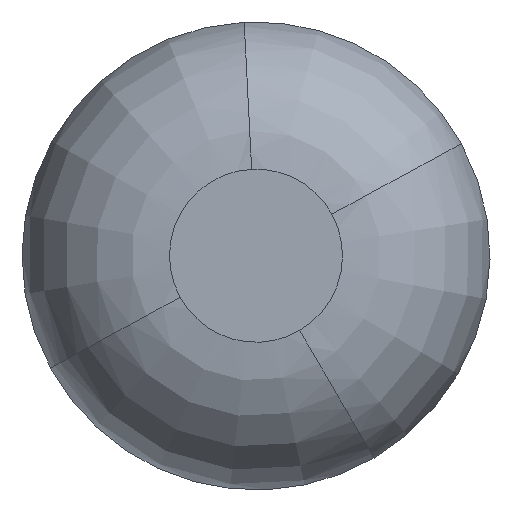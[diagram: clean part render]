
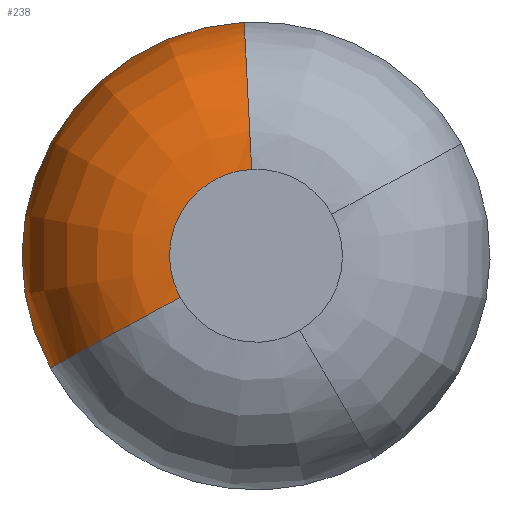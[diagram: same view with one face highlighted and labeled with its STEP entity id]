
A CAD part, top view. The second image highlights one B-rep face of the part: STEP entity #238.
In plain terms, the highlighted face is a revolution surface.
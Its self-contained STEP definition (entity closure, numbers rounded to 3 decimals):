
#153=AXIS2_PLACEMENT_3D('Circle Axis2P3D',#151,#152,$) ;
#229=AXIS2_PLACEMENT_3D('Circle Axis2P3D',#227,#228,$) ;
#148=CARTESIAN_POINT('Vertex',(-6.961,-3.803,144.933)) ;
#151=CARTESIAN_POINT('Axis2P3D Location',(0.,0.,144.933)) ;
#155=CARTESIAN_POINT('Vertex',(-0.401,7.922,144.933)) ;
#197=CARTESIAN_POINT('Control Point',(0.401,-7.922,144.933)) ;
#198=CARTESIAN_POINT('Control Point',(0.402,-7.943,146.517)) ;
#199=CARTESIAN_POINT('Control Point',(0.371,-7.34,148.111)) ;
#200=CARTESIAN_POINT('Control Point',(0.308,-6.095,149.374)) ;
#201=CARTESIAN_POINT('Control Point',(0.228,-4.511,150.)) ;
#202=CARTESIAN_POINT('Control Point',(0.148,-2.929,150.)) ;
#203=CARTESIAN_POINT('Axis1P Location',(0.,0.,145.)) ;
#208=CARTESIAN_POINT('Control Point',(-0.401,7.922,144.933)) ;
#209=CARTESIAN_POINT('Control Point',(-0.402,7.943,146.517)) ;
#210=CARTESIAN_POINT('Control Point',(-0.371,7.34,148.111)) ;
#211=CARTESIAN_POINT('Control Point',(-0.308,6.095,149.374)) ;
#212=CARTESIAN_POINT('Control Point',(-0.228,4.511,150.)) ;
#213=CARTESIAN_POINT('Control Point',(-0.148,2.929,150.)) ;
#214=CARTESIAN_POINT('Vertex',(-0.148,2.929,150.)) ;
#218=CARTESIAN_POINT('Control Point',(-6.961,-3.803,144.933)) ;
#219=CARTESIAN_POINT('Control Point',(-6.98,-3.813,146.517)) ;
#220=CARTESIAN_POINT('Control Point',(-6.45,-3.523,148.111)) ;
#221=CARTESIAN_POINT('Control Point',(-5.356,-2.926,149.374)) ;
#222=CARTESIAN_POINT('Control Point',(-3.964,-2.166,150.)) ;
#223=CARTESIAN_POINT('Control Point',(-2.574,-1.406,150.)) ;
#224=CARTESIAN_POINT('Vertex',(-2.574,-1.406,150.)) ;
#227=CARTESIAN_POINT('Axis2P3D Location',(0.,0.,150.)) ;
#152=DIRECTION('Axis2P3D Direction',(0.,0.,1.)) ;
#204=DIRECTION('Axis1P Direction',(0.,0.,-1.)) ;
#228=DIRECTION('Axis2P3D Direction',(0.,0.,-1.)) ;
#205=AXIS1_PLACEMENT('Revolution Surface Axis1P',#203,#204) ;
#233=ORIENTED_EDGE('',*,*,#216,.T.) ;
#234=ORIENTED_EDGE('',*,*,#157,.T.) ;
#235=ORIENTED_EDGE('',*,*,#226,.F.) ;
#236=ORIENTED_EDGE('',*,*,#231,.F.) ;
#238=ADVANCED_FACE('\X2\96F64EF651E04F554F53\X0\',(#237),#206,.F.) ;
#196=B_SPLINE_CURVE_WITH_KNOTS('',5,(#197,#198,#199,#200,#201,#202),.UNSPECIFIED.,.F.,.U.,(6,6),(-0.067,8.286),.UNSPECIFIED.) ;
#207=B_SPLINE_CURVE_WITH_KNOTS('',5,(#208,#209,#210,#211,#212,#213),.UNSPECIFIED.,.F.,.U.,(6,6),(-0.067,8.286),.UNSPECIFIED.) ;
#217=B_SPLINE_CURVE_WITH_KNOTS('',5,(#218,#219,#220,#221,#222,#223),.UNSPECIFIED.,.F.,.U.,(6,6),(-0.067,8.286),.UNSPECIFIED.) ;
#154=CIRCLE('generated circle',#153,7.932) ;
#230=CIRCLE('generated circle',#229,2.933) ;
#157=EDGE_CURVE('',#156,#149,#154,.T.) ;
#216=EDGE_CURVE('',#215,#156,#207,.F.) ;
#226=EDGE_CURVE('',#225,#149,#217,.F.) ;
#231=EDGE_CURVE('',#215,#225,#230,.F.) ;
#232=EDGE_LOOP('',(#233,#234,#235,#236)) ;
#237=FACE_OUTER_BOUND('',#232,.T.) ;
#206=SURFACE_OF_REVOLUTION('Surface of Revolution',#196,#205) ;
#149=VERTEX_POINT('',#148) ;
#156=VERTEX_POINT('',#155) ;
#215=VERTEX_POINT('',#214) ;
#225=VERTEX_POINT('',#224) ;
